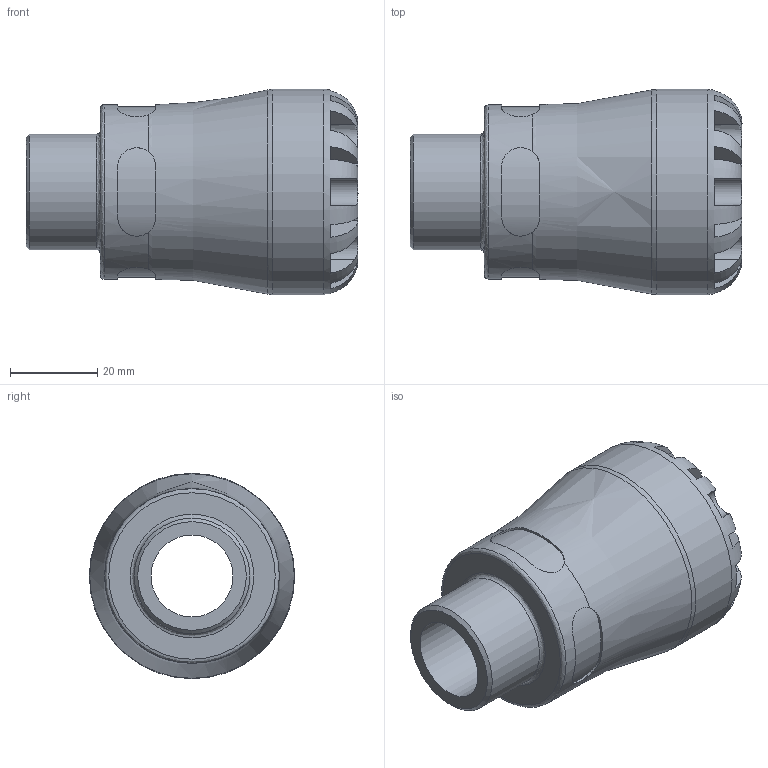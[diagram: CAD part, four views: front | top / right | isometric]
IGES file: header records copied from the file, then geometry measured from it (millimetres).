
Global section: file name: 100200025007_190200025007.ipt; native system: Autodesk Inventor 2015; preprocessor: unknown; author: KIM; date: 20170727.143941; units: millimetre
Bounding box: 76 x 47 x 47 mm (x, y, z)
Volume: 61656.2 mm3; surface area: 17954.1 mm2
Topology: 1 solids, 1 shells, 100 faces, 268 edges, 172 vertices
Faces by surface type: plane 60, revolution 24, cylinder 15, cone 1
Full cylindrical faces by diameter (mm): 26.441 x1, 39.95 x1, 47 x1
